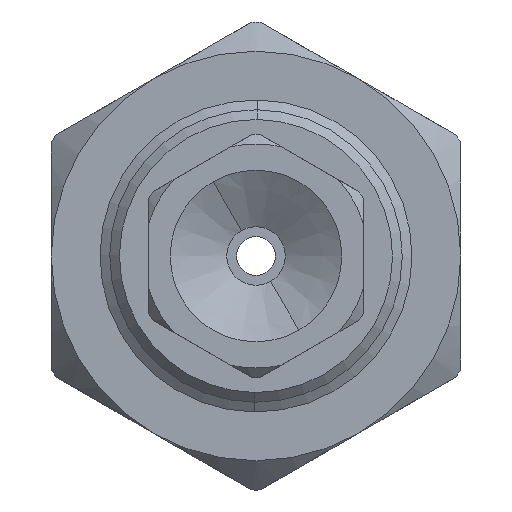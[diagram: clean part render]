
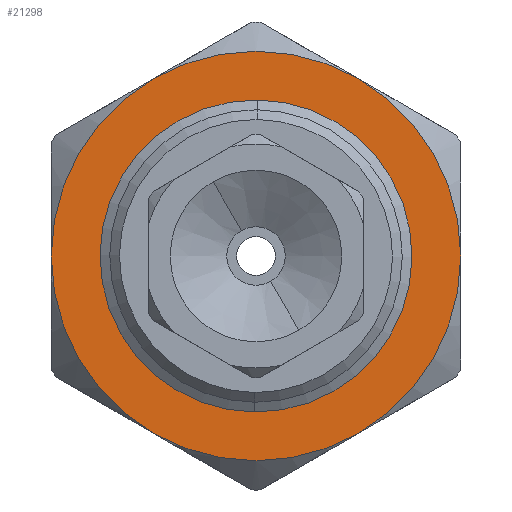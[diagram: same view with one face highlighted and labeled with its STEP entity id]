
A CAD part, front view. The second image highlights one B-rep face of the part: STEP entity #21298.
In plain terms, the highlighted planar face has unit normal (0, -1, 0).
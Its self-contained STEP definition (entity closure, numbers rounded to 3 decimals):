
#810 = DIRECTION ( 'NONE',  ( 0., -1., 0. ) ) ;
#813 = EDGE_CURVE ( 'NONE', #22745, #13048, #7577, .T. ) ;
#968 = EDGE_CURVE ( 'NONE', #11434, #22745, #13799, .T. ) ;
#987 = CARTESIAN_POINT ( 'NONE',  ( 4., -30.4, 4. ) ) ;
#1445 = AXIS2_PLACEMENT_3D ( 'NONE', #10597, #11086, #7678 ) ;
#1535 = CIRCLE ( 'NONE', #10243, 7.25 ) ;
#1728 = ORIENTED_EDGE ( 'NONE', *, *, #14882, .T. ) ;
#1836 = ORIENTED_EDGE ( 'NONE', *, *, #10203, .T. ) ;
#2125 = FACE_OUTER_BOUND ( 'NONE', #9020, .T. ) ;
#2153 = CARTESIAN_POINT ( 'NONE',  ( 4., -30.4, 4. ) ) ;
#2850 = DIRECTION ( 'NONE',  ( -0.5, 0., 0.866 ) ) ;
#3032 = CARTESIAN_POINT ( 'NONE',  ( 0.375, -30.4, 10.279 ) ) ;
#3255 = CARTESIAN_POINT ( 'NONE',  ( 9.25, -30.4, -5.093 ) ) ;
#3876 = EDGE_CURVE ( 'NONE', #11176, #20590, #14535, .T. ) ;
#4021 = DIRECTION ( 'NONE',  ( -0.5, 0., 0.866 ) ) ;
#4351 = EDGE_LOOP ( 'NONE', ( #15881, #1836 ) ) ;
#4940 = DIRECTION ( 'NONE',  ( 0., -1., 0. ) ) ;
#5204 = DIRECTION ( 'NONE',  ( 0., -1., 0. ) ) ;
#5288 = VERTEX_POINT ( 'NONE', #18452 ) ;
#5333 = VERTEX_POINT ( 'NONE', #7339 ) ;
#7257 = AXIS2_PLACEMENT_3D ( 'NONE', #12108, #810, #14000 ) ;
#7339 = CARTESIAN_POINT ( 'NONE',  ( 14.5, -30.4, 4. ) ) ;
#7577 = CIRCLE ( 'NONE', #1445, 10.5 ) ;
#7650 = AXIS2_PLACEMENT_3D ( 'NONE', #10961, #24168, #12875 ) ;
#7678 = DIRECTION ( 'NONE',  ( -0.5, 0., 0.866 ) ) ;
#7840 = CIRCLE ( 'NONE', #19958, 10.5 ) ;
#9020 = EDGE_LOOP ( 'NONE', ( #12019, #22166, #1728, #13175, #22717, #22475 ) ) ;
#10203 = EDGE_CURVE ( 'NONE', #20590, #11176, #1535, .T. ) ;
#10237 = AXIS2_PLACEMENT_3D ( 'NONE', #987, #14175, #2850 ) ;
#10243 = AXIS2_PLACEMENT_3D ( 'NONE', #11243, #24442, #13145 ) ;
#10597 = CARTESIAN_POINT ( 'NONE',  ( 4., -30.4, 4. ) ) ;
#10611 = DIRECTION ( 'NONE',  ( 0., 1., 0. ) ) ;
#10961 = CARTESIAN_POINT ( 'NONE',  ( 4., -30.4, 4. ) ) ;
#11068 = CARTESIAN_POINT ( 'NONE',  ( 7.625, -30.4, -2.279 ) ) ;
#11086 = DIRECTION ( 'NONE',  ( 0., -1., 0. ) ) ;
#11176 = VERTEX_POINT ( 'NONE', #3032 ) ;
#11243 = CARTESIAN_POINT ( 'NONE',  ( 4., -30.4, 4. ) ) ;
#11434 = VERTEX_POINT ( 'NONE', #19465 ) ;
#11573 = FACE_BOUND ( 'NONE', #4351, .T. ) ;
#12019 = ORIENTED_EDGE ( 'NONE', *, *, #23205, .T. ) ;
#12108 = CARTESIAN_POINT ( 'NONE',  ( 4., -30.4, 4. ) ) ;
#12875 = DIRECTION ( 'NONE',  ( -0.5, 0., 0.866 ) ) ;
#13048 = VERTEX_POINT ( 'NONE', #3255 ) ;
#13145 = DIRECTION ( 'NONE',  ( -0.5, 0., 0.866 ) ) ;
#13175 = ORIENTED_EDGE ( 'NONE', *, *, #14730, .T. ) ;
#13186 = AXIS2_PLACEMENT_3D ( 'NONE', #16246, #4940, #18169 ) ;
#13582 = CARTESIAN_POINT ( 'NONE',  ( -1.25, -30.4, 13.093 ) ) ;
#13799 = CIRCLE ( 'NONE', #7257, 10.5 ) ;
#13818 = CARTESIAN_POINT ( 'NONE',  ( -1.25, -30.4, -5.093 ) ) ;
#13944 = CIRCLE ( 'NONE', #20689, 10.5 ) ;
#14000 = DIRECTION ( 'NONE',  ( -0.5, 0., 0.866 ) ) ;
#14175 = DIRECTION ( 'NONE',  ( 0., 1., 0. ) ) ;
#14535 = CIRCLE ( 'NONE', #15460, 7.25 ) ;
#14730 = EDGE_CURVE ( 'NONE', #20214, #11434, #23752, .T. ) ;
#14882 = EDGE_CURVE ( 'NONE', #5288, #20214, #19651, .T. ) ;
#15364 = DIRECTION ( 'NONE',  ( 0., -1., 0. ) ) ;
#15460 = AXIS2_PLACEMENT_3D ( 'NONE', #21930, #10611, #23805 ) ;
#15881 = ORIENTED_EDGE ( 'NONE', *, *, #3876, .T. ) ;
#16246 = CARTESIAN_POINT ( 'NONE',  ( 4., -30.4, 4. ) ) ;
#16277 = EDGE_CURVE ( 'NONE', #5333, #5288, #13944, .T. ) ;
#16530 = CARTESIAN_POINT ( 'NONE',  ( 4., -30.4, 4. ) ) ;
#17892 = PLANE ( 'NONE',  #10237 ) ;
#18169 = DIRECTION ( 'NONE',  ( -0.5, 0., 0.866 ) ) ;
#18443 = DIRECTION ( 'NONE',  ( -0.5, 0., 0.866 ) ) ;
#18452 = CARTESIAN_POINT ( 'NONE',  ( 9.25, -30.4, 13.093 ) ) ;
#19465 = CARTESIAN_POINT ( 'NONE',  ( -6.5, -30.4, 4. ) ) ;
#19651 = CIRCLE ( 'NONE', #7650, 10.5 ) ;
#19958 = AXIS2_PLACEMENT_3D ( 'NONE', #2153, #15364, #4021 ) ;
#20214 = VERTEX_POINT ( 'NONE', #13582 ) ;
#20590 = VERTEX_POINT ( 'NONE', #11068 ) ;
#20689 = AXIS2_PLACEMENT_3D ( 'NONE', #16530, #5204, #18443 ) ;
#21298 = ADVANCED_FACE ( 'NONE', ( #11573, #2125 ), #17892, .F. ) ;
#21930 = CARTESIAN_POINT ( 'NONE',  ( 4., -30.4, 4. ) ) ;
#22166 = ORIENTED_EDGE ( 'NONE', *, *, #16277, .T. ) ;
#22475 = ORIENTED_EDGE ( 'NONE', *, *, #813, .T. ) ;
#22717 = ORIENTED_EDGE ( 'NONE', *, *, #968, .T. ) ;
#22745 = VERTEX_POINT ( 'NONE', #13818 ) ;
#23205 = EDGE_CURVE ( 'NONE', #13048, #5333, #7840, .T. ) ;
#23752 = CIRCLE ( 'NONE', #13186, 10.5 ) ;
#23805 = DIRECTION ( 'NONE',  ( -0.5, 0., 0.866 ) ) ;
#24168 = DIRECTION ( 'NONE',  ( 0., -1., 0. ) ) ;
#24442 = DIRECTION ( 'NONE',  ( 0., 1., 0. ) ) ;
